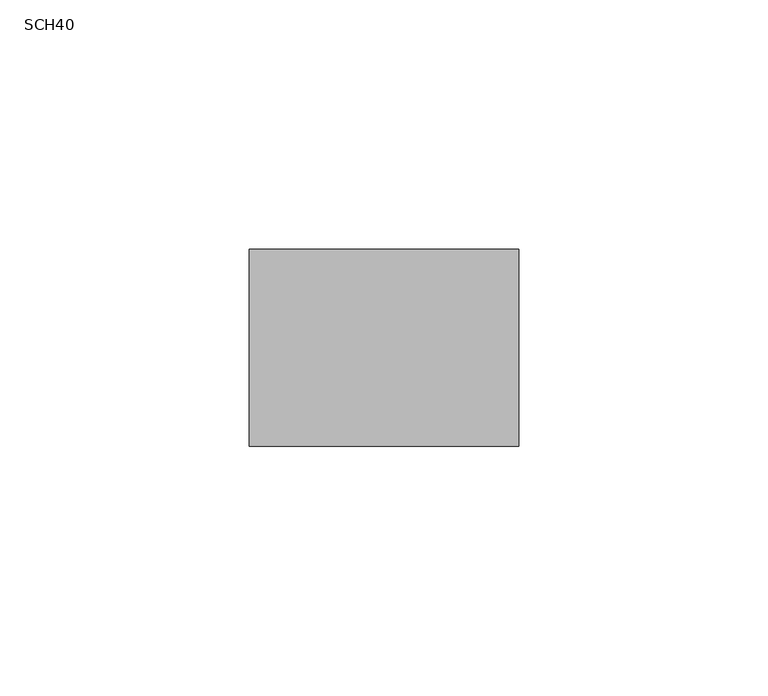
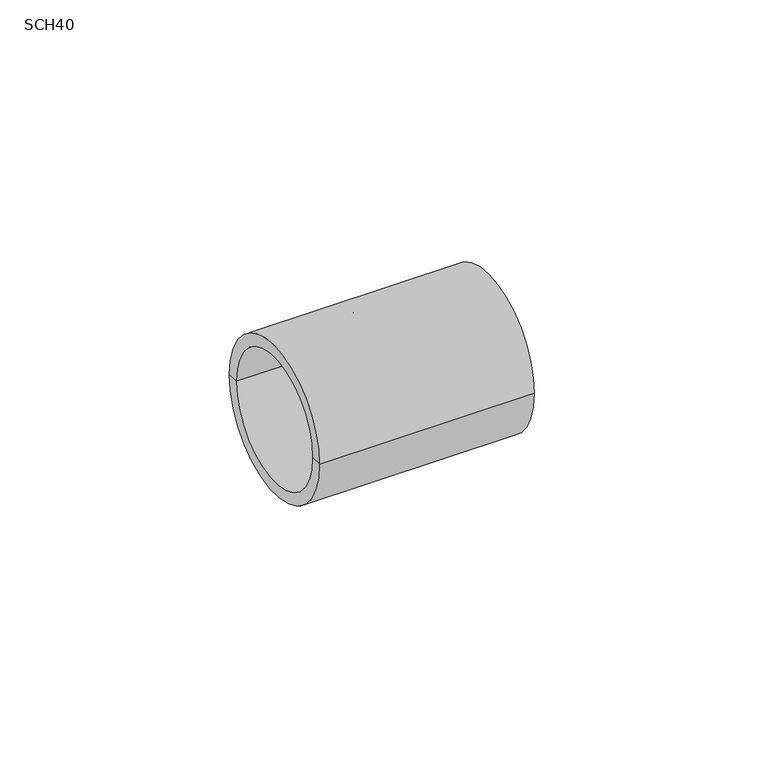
"""IFC4 building model written with IfcOpenShell, lengths in millimetres: pipe fitting geometry, PavcoWavin_PipeFittings_Union : SCH40."""

from ifc_helpers import new_model, si_unit, frame, origin, place, context, project, spatial, polyline, circle_curve, source, transform, mapped, element, save
from ifc_brep_helpers import plane_surface, cylinder_surface, revolved_surface, advanced_brep


def sch40_516e4f61(model_context):
    return source(origin(), model_context, "Body", "AdvancedBrep", [
        advanced_brep(
        [(-1.59, 0.0, 0.0), (-1.59, 16.7, 0.0), (-1.59, -16.7, 0.0), (1.59, -16.7, 0.0), (1.59, 16.7, 0.0), (1.59, 0.0, 0.0), (26.99, -16.7, 0.0), (26.99, 16.7, 0.0), (26.99, -19.75, 0.0), (26.99, 19.75, 0.0), (-26.99, -19.75, 0.0), (-26.99, 19.75, 0.0), (-26.99, -16.7, 0.0), (-26.99, 16.7, 0.0)],
        [
            (0, 1),
            (1, 2, circle_curve(frame((-1.59, 0.0, 0.0), z_axis=(-1.0, 0.0, 0.0), x_axis=(0.0, 1.0, 0.0)), 16.7)),
            (2, 0),
            (2, 1, circle_curve(frame((-1.59, 0.0, 0.0), z_axis=(-1.0, 0.0, 0.0), x_axis=(0.0, 1.0, 0.0)), 16.7)),
            (3, 4, circle_curve(frame((1.59, 0.0, 0.0), z_axis=(1.0, 0.0, 0.0), x_axis=(0.0, 1.0, 0.0)), 16.7)),
            (4, 5),
            (5, 3),
            (4, 3, circle_curve(frame((1.59, 0.0, 0.0), z_axis=(1.0, 0.0, 0.0), x_axis=(0.0, 1.0, 0.0)), 16.7)),
            (6, 7, circle_curve(frame((26.99, 0.0, 0.0), z_axis=(1.0, 0.0, 0.0), x_axis=(0.0, 1.0, 0.0)), 16.7)),
            (7, 4),
            (3, 6),
            (7, 6, circle_curve(frame((26.99, 0.0, 0.0), z_axis=(1.0, 0.0, 0.0), x_axis=(0.0, 1.0, 0.0)), 16.7)),
            (8, 9, circle_curve(frame((26.99, 0.0, 0.0), z_axis=(1.0, 0.0, 0.0), x_axis=(0.0, 1.0, 0.0)), 19.75)),
            (9, 7),
            (6, 8),
            (9, 8, circle_curve(frame((26.99, 0.0, 0.0), z_axis=(1.0, 0.0, 0.0), x_axis=(0.0, 1.0, 0.0)), 19.75)),
            (10, 11, circle_curve(frame((-26.99, 0.0, 0.0), z_axis=(1.0, 0.0, 0.0), x_axis=(0.0, 1.0, 0.0)), 19.75)),
            (11, 9),
            (8, 10),
            (11, 10, circle_curve(frame((-26.99, 0.0, 0.0), z_axis=(1.0, 0.0, 0.0), x_axis=(0.0, 1.0, 0.0)), 19.75)),
            (12, 13, circle_curve(frame((-26.99, 0.0, 0.0), z_axis=(1.0, 0.0, 0.0), x_axis=(0.0, 1.0, 0.0)), 16.7)),
            (13, 11),
            (10, 12),
            (13, 12, circle_curve(frame((-26.99, 0.0, 0.0), z_axis=(1.0, 0.0, 0.0), x_axis=(0.0, 1.0, 0.0)), 16.7)),
            (1, 13),
            (12, 2),
        ],
        [
            plane_surface(frame((-1.59, 0.0, 0.0), z_axis=(-1.0, 0.0, 0.0), x_axis=(0.0, 1.0, 0.0))),
            plane_surface(frame((1.59, 0.0, 0.0), z_axis=(1.0, 0.0, 0.0), x_axis=(0.0, 1.0, 0.0))),
            revolved_surface(polyline([(1.5899999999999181, 16.7, 0.0), (26.99000000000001, 16.7, 0.0)]), (2006.35, 0.0, 0.0), (-1.0, 0.0, 0.0)),
            plane_surface(frame((26.99, 0.0, 0.0), z_axis=(1.0, 0.0, 0.0), x_axis=(0.0, 1.0, 0.0))),
            cylinder_surface(frame((2006.35, 0.0, 0.0), z_axis=(-1.0, 0.0, 0.0), x_axis=(0.0, 1.0, 0.0)), 19.75),
            plane_surface(frame((-26.99, 0.0, 0.0), z_axis=(-1.0, 0.0, 0.0), x_axis=(0.0, 1.0, 0.0))),
            revolved_surface(polyline([(-26.99000000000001, 16.7, 0.0), (-1.5899999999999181, 16.7, 0.0)]), (2006.35, 0.0, 0.0), (-1.0, 0.0, 0.0)),
        ],
        [
            (0, [[1, 2, 3]]),
            (0, [[-3, 4, -1]]),
            (1, [[5, 6, 7]]),
            (1, [[8, -7, -6]]),
            (2, [[9, 10, -5, 11]]),
            (2, [[12, -11, -8, -10]]),
            (3, [[13, 14, -9, 15]]),
            (3, [[16, -15, -12, -14]]),
            (4, [[17, 18, -13, 19]]),
            (4, [[20, -19, -16, -18]]),
            (5, [[21, 22, -17, 23]]),
            (5, [[24, -23, -20, -22]]),
            (6, [[-2, 25, -21, 26]]),
            (6, [[-4, -26, -24, -25]]),
        ],
    ),
    ])


if __name__ == "__main__":
    model = new_model("IFC4")
    model_context = context("Model", 3, world=origin())
    ifc_project = project(units=[si_unit("LENGTHUNIT", "METRE", prefix="MILLI")], contexts=[model_context])
    site = spatial("IfcSite", under=ifc_project)
    building = spatial("IfcBuilding", under=site)
    placement = place(None, origin())
    sch40_shape = sch40_516e4f61(model_context)
    element("IfcPipeFitting", 1, ObjectType="PavcoWavin_PipeFittings_Union : SCH40", at=placement, inside=building, context=model_context, shape_type="MappedRepresentation", body=[
        mapped(sch40_shape, transform((0.0, 0.0, 0.0), x_axis=(1.0, 0.0, 0.0), y_axis=(0.0, 1.0, 0.0), z_axis=(0.0, 0.0, 1.0))),
    ])
    save(model, "model.ifc")
